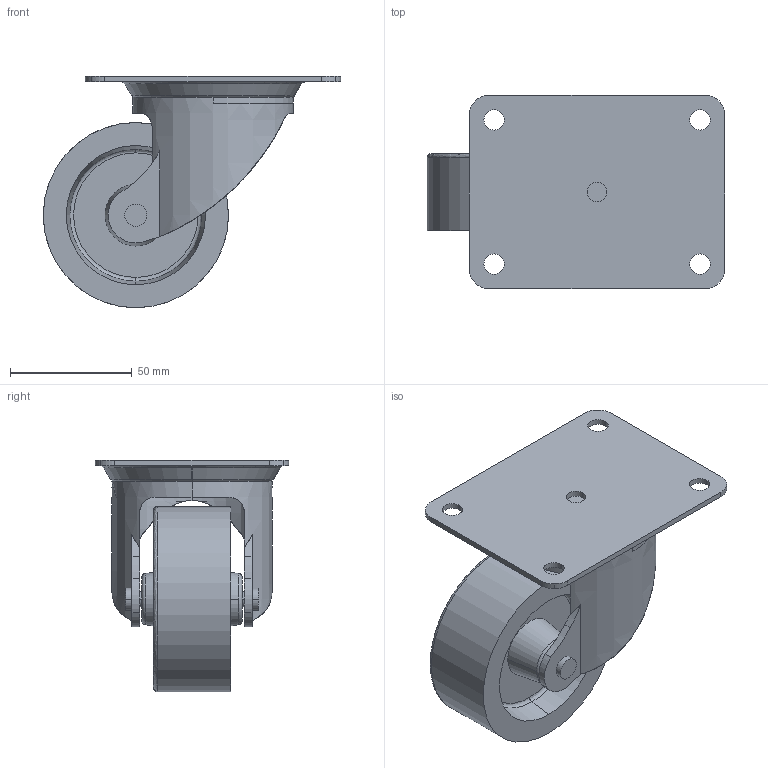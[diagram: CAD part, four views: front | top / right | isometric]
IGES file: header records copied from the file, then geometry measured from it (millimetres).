
Global section: file name: C:\Documents and Settings\Administrator\Desktop\Transfer Temp\goalcaster.igs; native system: AutoDesk Inventor R2.0 ; preprocessor: AutoDesk Inventor Iges Exporter R2.0; author: No Author specified; organization: No Organization specified; date: 20020111.213035; units: inch
Bounding box: 122.38 x 79.6 x 95.25 mm (x, y, z)
Surface area: 61048.2 mm2 (no closed solid volume)
Topology: 0 solids, 0 shells, 116 faces, 586 edges, 586 vertices
Faces by surface type: revolution 76, bspline 40
